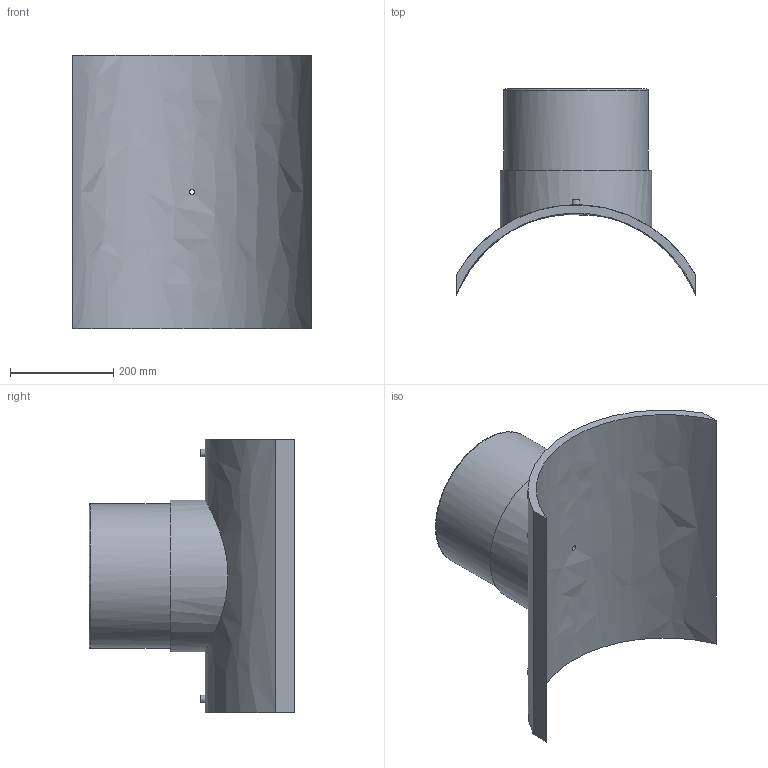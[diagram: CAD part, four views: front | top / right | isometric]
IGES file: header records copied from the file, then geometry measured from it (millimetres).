
Global section: file name: 495803500280T; native system: Autodesk Inventor 2019; preprocessor: unknown; author: KIM; date: 20240404.115204; units: millimetre
Bounding box: 465 x 399.11 x 530 mm (x, y, z)
Volume: 10827468.1 mm3; surface area: 1070466.4 mm2
Topology: 1 solids, 1 shells, 29 faces, 60 edges, 43 vertices
Faces by surface type: bspline 29
